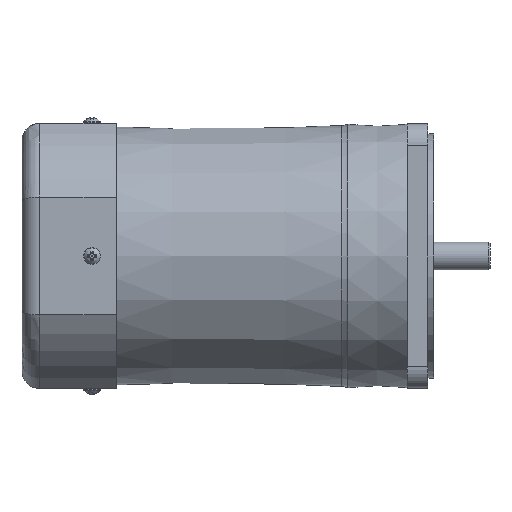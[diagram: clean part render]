
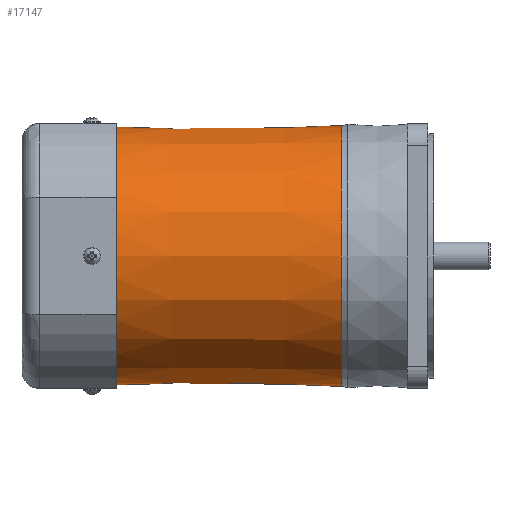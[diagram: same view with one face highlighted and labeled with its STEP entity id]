
A CAD part, front view. The second image highlights one B-rep face of the part: STEP entity #17147.
In plain terms, the highlighted conical face has half-angle 0.392 degrees and reference radius 44.029 mm.
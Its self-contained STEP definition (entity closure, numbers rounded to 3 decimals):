
#169=B_SPLINE_CURVE_WITH_KNOTS('',3,(#30008,#30009,#30010,#30011,#30012,
#30013,#30014,#30015),.UNSPECIFIED.,.F.,.F.,(4,2,1,1,4),(-0.206,
-0.205,-0.082,-0.041,0.),
 .UNSPECIFIED.);
#170=B_SPLINE_CURVE_WITH_KNOTS('',3,(#30120,#30121,#30122,#30123,#30124,
#30125,#30126,#30127,#30128,#30129,#30130,#30131,#30132,#30133,#30134,#30135,
#30136,#30137,#30138),.UNSPECIFIED.,.F.,.F.,(4,3,3,3,3,3,4),(-0.205,
-0.161,-0.123,-0.082,-0.039,
0.,0.001),.UNSPECIFIED.);
#178=B_SPLINE_CURVE_WITH_KNOTS('',3,(#30352,#30353,#30354,#30355),
 .UNSPECIFIED.,.F.,.F.,(4,4),(-8.355,-4.848),
 .UNSPECIFIED.);
#184=B_SPLINE_CURVE_WITH_KNOTS('',3,(#30473,#30474,#30475,#30476),
 .UNSPECIFIED.,.F.,.F.,(4,4),(-5.951,-2.444),
 .UNSPECIFIED.);
#805=CONICAL_SURFACE('',#18784,44.029,0.007);
#1796=CIRCLE('',#18613,43.786);
#1843=CIRCLE('',#18742,44.061);
#1847=CIRCLE('',#18746,44.061);
#1851=CIRCLE('',#18751,44.061);
#1853=CIRCLE('',#18753,1.594);
#1856=CIRCLE('',#18756,1.594);
#1869=CIRCLE('',#18782,44.308);
#1870=CIRCLE('',#18783,44.308);
#2797=FACE_OUTER_BOUND('',#3797,.T.);
#3797=EDGE_LOOP('',(#15263,#15264,#15265,#15266,#15267,#15268,#15269,#15270,
#15271,#15272,#15273,#15274,#15275,#15276));
#5255=LINE('',#30525,#6704);
#6704=VECTOR('',#23319,44.029);
#8059=VERTEX_POINT('',#28995);
#8204=VERTEX_POINT('',#29998);
#8206=VERTEX_POINT('',#30001);
#8208=VERTEX_POINT('',#30018);
#8209=VERTEX_POINT('',#30020);
#8212=VERTEX_POINT('',#30046);
#8214=VERTEX_POINT('',#30053);
#8215=VERTEX_POINT('',#30118);
#8216=VERTEX_POINT('',#30119);
#8233=VERTEX_POINT('',#30344);
#8240=VERTEX_POINT('',#30472);
#8243=VERTEX_POINT('',#30521);
#10325=EDGE_CURVE('',#8059,#8059,#1796,.T.);
#10552=EDGE_CURVE('',#8206,#8204,#169,.T.);
#10554=EDGE_CURVE('',#8208,#8209,#1843,.T.);
#10558=EDGE_CURVE('',#8212,#8208,#1847,.T.);
#10562=EDGE_CURVE('',#8214,#8212,#1851,.T.);
#10564=EDGE_CURVE('',#8204,#8214,#1853,.T.);
#10565=EDGE_CURVE('',#8215,#8216,#170,.T.);
#10569=EDGE_CURVE('',#8209,#8215,#1856,.T.);
#10598=EDGE_CURVE('',#8233,#8206,#178,.T.);
#10608=EDGE_CURVE('',#8216,#8240,#184,.T.);
#10616=EDGE_CURVE('',#8240,#8243,#1869,.T.);
#10617=EDGE_CURVE('',#8243,#8233,#1870,.T.);
#10618=EDGE_CURVE('',#8243,#8059,#5255,.T.);
#15263=ORIENTED_EDGE('',*,*,#10552,.F.);
#15264=ORIENTED_EDGE('',*,*,#10598,.F.);
#15265=ORIENTED_EDGE('',*,*,#10617,.F.);
#15266=ORIENTED_EDGE('',*,*,#10618,.T.);
#15267=ORIENTED_EDGE('',*,*,#10325,.T.);
#15268=ORIENTED_EDGE('',*,*,#10618,.F.);
#15269=ORIENTED_EDGE('',*,*,#10616,.F.);
#15270=ORIENTED_EDGE('',*,*,#10608,.F.);
#15271=ORIENTED_EDGE('',*,*,#10565,.F.);
#15272=ORIENTED_EDGE('',*,*,#10569,.F.);
#15273=ORIENTED_EDGE('',*,*,#10554,.F.);
#15274=ORIENTED_EDGE('',*,*,#10558,.F.);
#15275=ORIENTED_EDGE('',*,*,#10562,.F.);
#15276=ORIENTED_EDGE('',*,*,#10564,.F.);
#17147=ADVANCED_FACE('',(#2797),#805,.T.);
#18613=AXIS2_PLACEMENT_3D('',#28996,#22843,#22844);
#18742=AXIS2_PLACEMENT_3D('',#30021,#23217,#23218);
#18746=AXIS2_PLACEMENT_3D('',#30048,#23225,#23226);
#18751=AXIS2_PLACEMENT_3D('',#30055,#23235,#23236);
#18753=AXIS2_PLACEMENT_3D('',#30077,#23239,#23240);
#18756=AXIS2_PLACEMENT_3D('',#30170,#23245,#23246);
#18782=AXIS2_PLACEMENT_3D('',#30522,#23313,#23314);
#18783=AXIS2_PLACEMENT_3D('',#30523,#23315,#23316);
#18784=AXIS2_PLACEMENT_3D('',#30524,#23317,#23318);
#22843=DIRECTION('center_axis',(1.,0.,0.));
#22844=DIRECTION('ref_axis',(0.,1.,0.));
#23217=DIRECTION('center_axis',(1.,0.,0.));
#23218=DIRECTION('ref_axis',(0.,1.,0.));
#23225=DIRECTION('center_axis',(1.,0.,0.));
#23226=DIRECTION('ref_axis',(0.,0.999,0.052));
#23235=DIRECTION('center_axis',(1.,0.,0.));
#23236=DIRECTION('ref_axis',(0.,1.,0.));
#23239=DIRECTION('center_axis',(0.029,0.783,-0.621));
#23240=DIRECTION('ref_axis',(-1.,0.023,-0.018));
#23245=DIRECTION('center_axis',(0.029,0.783,0.621));
#23246=DIRECTION('ref_axis',(-0.993,-0.05,0.11));
#23313=DIRECTION('center_axis',(1.,0.,0.));
#23314=DIRECTION('ref_axis',(0.,1.,0.));
#23315=DIRECTION('center_axis',(1.,0.,0.));
#23316=DIRECTION('ref_axis',(0.,1.,0.));
#23317=DIRECTION('center_axis',(1.,0.,0.));
#23318=DIRECTION('ref_axis',(0.,1.,0.));
#23319=DIRECTION('',(-1.,0.007,0.));
#28995=CARTESIAN_POINT('',(14.2,-43.786,0.));
#28996=CARTESIAN_POINT('Origin',(14.2,0.,
0.));
#29998=CARTESIAN_POINT('',(54.514,34.398,-27.535));
#30001=CARTESIAN_POINT('',(55.495,33.28,-28.886));
#30008=CARTESIAN_POINT('Ctrl Pts',(55.497,33.278,-28.889));
#30009=CARTESIAN_POINT('Ctrl Pts',(55.495,33.279,-28.888));
#30010=CARTESIAN_POINT('Ctrl Pts',(55.494,33.28,-28.887));
#30011=CARTESIAN_POINT('Ctrl Pts',(55.231,33.484,-28.649));
#30012=CARTESIAN_POINT('Ctrl Pts',(54.879,33.755,-28.327));
#30013=CARTESIAN_POINT('Ctrl Pts',(54.595,34.147,-27.847));
#30014=CARTESIAN_POINT('Ctrl Pts',(54.53,34.314,-27.64));
#30015=CARTESIAN_POINT('Ctrl Pts',(54.514,34.398,-27.535));
#30018=CARTESIAN_POINT('',(54.503,44.001,2.308));
#30020=CARTESIAN_POINT('',(54.503,34.514,27.389));
#30021=CARTESIAN_POINT('Origin',(54.503,0.,
0.));
#30046=CARTESIAN_POINT('',(54.503,44.001,-2.308));
#30048=CARTESIAN_POINT('Origin',(54.503,0.,
0.));
#30053=CARTESIAN_POINT('',(54.503,34.514,-27.389));
#30055=CARTESIAN_POINT('Origin',(54.503,0.,
0.));
#30077=CARTESIAN_POINT('Origin',(56.097,34.478,-27.36));
#30118=CARTESIAN_POINT('',(54.514,34.398,27.535));
#30119=CARTESIAN_POINT('',(55.497,33.278,28.889));
#30120=CARTESIAN_POINT('Ctrl Pts',(54.514,34.398,27.535));
#30121=CARTESIAN_POINT('Ctrl Pts',(54.531,34.309,27.647));
#30122=CARTESIAN_POINT('Ctrl Pts',(54.567,34.221,27.756));
#30123=CARTESIAN_POINT('Ctrl Pts',(54.616,34.135,27.862));
#30124=CARTESIAN_POINT('Ctrl Pts',(54.659,34.06,27.954));
#30125=CARTESIAN_POINT('Ctrl Pts',(54.713,33.986,28.044));
#30126=CARTESIAN_POINT('Ctrl Pts',(54.773,33.915,28.131));
#30127=CARTESIAN_POINT('Ctrl Pts',(54.838,33.839,28.223));
#30128=CARTESIAN_POINT('Ctrl Pts',(54.911,33.766,28.311));
#30129=CARTESIAN_POINT('Ctrl Pts',(54.988,33.694,28.397));
#30130=CARTESIAN_POINT('Ctrl Pts',(55.069,33.62,28.486));
#30131=CARTESIAN_POINT('Ctrl Pts',(55.156,33.547,28.572));
#30132=CARTESIAN_POINT('Ctrl Pts',(55.244,33.476,28.657));
#30133=CARTESIAN_POINT('Ctrl Pts',(55.326,33.41,28.734));
#30134=CARTESIAN_POINT('Ctrl Pts',(55.409,33.346,28.81));
#30135=CARTESIAN_POINT('Ctrl Pts',(55.493,33.281,28.886));
#30136=CARTESIAN_POINT('Ctrl Pts',(55.494,33.28,28.887));
#30137=CARTESIAN_POINT('Ctrl Pts',(55.495,33.279,28.888));
#30138=CARTESIAN_POINT('Ctrl Pts',(55.497,33.278,28.889));
#30170=CARTESIAN_POINT('Origin',(56.097,34.478,27.36));
#30344=CARTESIAN_POINT('',(90.559,33.589,-28.896));
#30352=CARTESIAN_POINT('Ctrl Pts',(90.559,33.589,-28.896));
#30353=CARTESIAN_POINT('Ctrl Pts',(78.871,33.485,-28.893));
#30354=CARTESIAN_POINT('Ctrl Pts',(67.184,33.382,-28.891));
#30355=CARTESIAN_POINT('Ctrl Pts',(55.497,33.278,-28.889));
#30472=CARTESIAN_POINT('',(90.559,33.589,28.896));
#30473=CARTESIAN_POINT('Ctrl Pts',(55.497,33.278,28.889));
#30474=CARTESIAN_POINT('Ctrl Pts',(67.184,33.382,28.891));
#30475=CARTESIAN_POINT('Ctrl Pts',(78.871,33.485,28.893));
#30476=CARTESIAN_POINT('Ctrl Pts',(90.559,33.589,28.896));
#30521=CARTESIAN_POINT('',(90.559,-44.308,0.));
#30522=CARTESIAN_POINT('Origin',(90.559,0.,
0.));
#30523=CARTESIAN_POINT('Origin',(90.559,0.,
0.));
#30524=CARTESIAN_POINT('Origin',(49.779,0.,
0.));
#30525=CARTESIAN_POINT('',(49.779,-44.029,0.));
